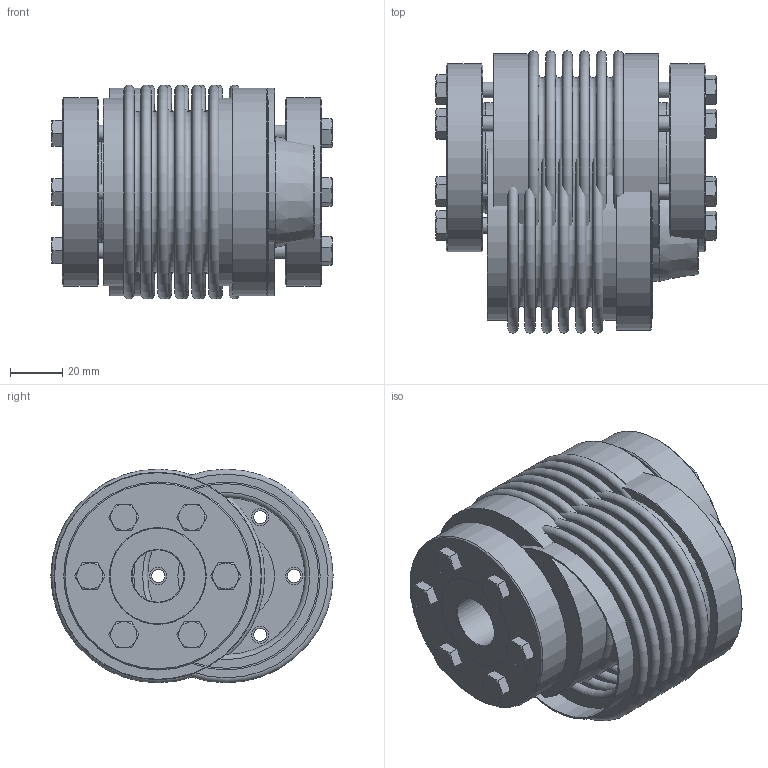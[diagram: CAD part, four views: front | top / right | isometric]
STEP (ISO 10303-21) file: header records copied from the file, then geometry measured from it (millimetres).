
FILE_DESCRIPTION( ( 'Unknown' ), '1' );
FILE_NAME( 'C:/Dokumente und Einstellungen/Sven/Desktop/homepage/cad - homepage/KB6/KB6-80-107.stp', 'Unknown', ( 'Unknown' ), ( 'Unknown' ), 'XStep 1.0', 'Unknown', ' ' );
FILE_SCHEMA( ( 'automotive_design' ) );
Length unit declared in the file: millimetre
Products named in the file (5): Assem1; Hex Screw GradeC_DIN_ISO 4018 - M6 x 30-NN_3; BA80-150_Standard_1; BL80-150_Standard_0; DR80-150_Standard_1
Bounding box: 107.35 x 108.03 x 81.85 mm (x, y, z)
Volume: 401336.5 mm3; surface area: 234246 mm2
Topology: 21 solids, 21 shells, 415 faces, 837 edges, 528 vertices
Faces by surface type: plane 184, cone 118, cylinder 69, torus 44
Full cylindrical faces by diameter (mm): 5 x18, 6 x13, 6.6 x18, 20 x3, 42.29 x3, 70.7 x4, 71.9 x4, 72 x3, 79.5 x3
Entity records: 2564 total; most frequent: DIRECTION 452, CARTESIAN_POINT 395, ORIENTED_EDGE 254, AXIS2_PLACEMENT_3D 220, EDGE_LOOP 208, FACE_OUTER_BOUND 142, EDGE_CURVE 127, VERTEX_POINT 115
